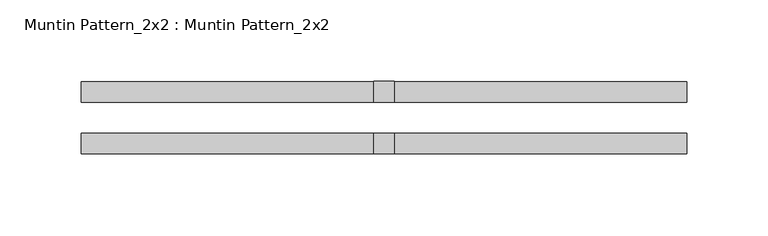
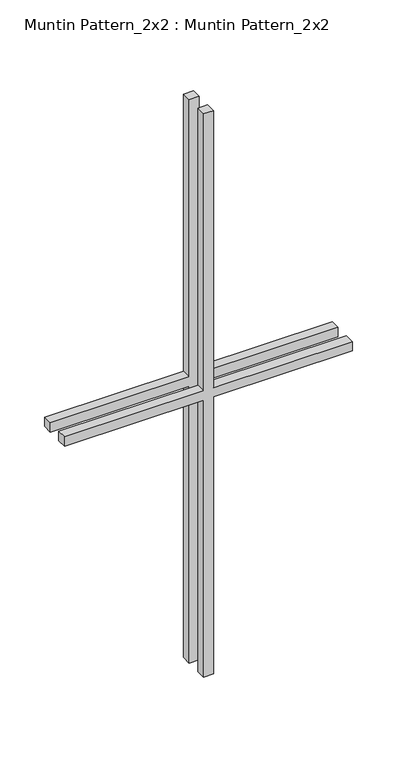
"""IFC4 building model written with IfcOpenShell, lengths in millimetres: proxy geometry, Muntin Pattern_2x2 : Muntin Pattern_2x2."""

import ifcopenshell
import ifcopenshell.guid

model = None  # the IFC model being written
_history = None  # IfcOwnerHistory: only IFC2X3 demands one
_inside = {}  # id of a spatial element -> (the spatial element, [elements in it])
_under = {}  # id of a project, library or spatial element -> (it, [spatial elements below it])
_declared = {}  # id of a project -> (the project, [libraries it declares])
_typed = {}  # id of a type object -> (the type object, [elements of that type])
_made_of = {}  # id of a material, layer set ... -> (it, [elements and type objects made of it])


def new_model(schema):
    """Start an empty IFC model of exactly this schema.

    Asked for "IFC4X3", IfcOpenShell would pick the latest addendum, in which some entities
    have other attributes; the version numbers below select the first issue.
    IFC2X3 requires an IfcOwnerHistory on every rooted entity: one is made here for all.
    """
    global model, _history
    if schema == "IFC4X3":
        model = ifcopenshell.file(schema_version=(4, 3, 0, 0))
    else:
        model = ifcopenshell.file(schema=schema)
    _inside.clear()
    _under.clear()
    _declared.clear()
    _typed.clear()
    _made_of.clear()
    _history = None
    if model.schema == "IFC2X3":
        org = make("IfcOrganization", Name="unknown")
        user = make(
            "IfcPersonAndOrganization",
            ThePerson=make("IfcPerson", FamilyName="unknown"),
            TheOrganization=org,
        )
        app = make(
            "IfcApplication",
            ApplicationDeveloper=org,
            Version="unknown",
            ApplicationFullName="unknown",
            ApplicationIdentifier="unknown",
        )
        _history = make(
            "IfcOwnerHistory",
            OwningUser=user,
            OwningApplication=app,
            ChangeAction="ADDED",
            CreationDate=0,
        )
    return model


def make(cls, **values):
    """One entity of the class cls with the attributes given. An attribute that is None is left unset."""
    return model.create_entity(
        cls, **{name: value for name, value in values.items() if value is not None}
    )


def rooted(cls, **values):
    """An entity with a GlobalId (a new one), such as an element, a storey or a relation."""
    return make(cls, GlobalId=ifcopenshell.guid.new(), OwnerHistory=_history, **values)


def si_unit(unit_type, name, prefix=None):
    """IfcSIUnit, for example si_unit("LENGTHUNIT", "METRE", prefix="MILLI")."""
    return make("IfcSIUnit", UnitType=unit_type, Prefix=prefix, Name=name)


def assignment(units):
    """IfcUnitAssignment: the units of a project."""
    return None if units is None else make("IfcUnitAssignment", Units=units)


def point(xyz):
    """IfcCartesianPoint."""
    return None if xyz is None else make("IfcCartesianPoint", Coordinates=xyz)


def direction(xyz):
    """IfcDirection."""
    return None if xyz is None else make("IfcDirection", DirectionRatios=xyz)


def frame(location, z_axis=None, x_axis=None):
    """IfcAxis2Placement3D, a coordinate frame: its origin and axes. An axis left out is left unset."""
    return make(
        "IfcAxis2Placement3D",
        Location=point(location),
        Axis=direction(z_axis),
        RefDirection=direction(x_axis),
    )


def origin():
    """The frame at (0, 0, 0) with its axes left unset."""
    return frame((0.0, 0.0, 0.0))


def place(relative_to, where):
    """IfcLocalPlacement: puts the frame where relative to a parent placement (None: the world)."""
    return make(
        "IfcLocalPlacement", PlacementRelTo=relative_to, RelativePlacement=where
    )


def context(
    kind, dimensions, precision=None, world=None, true_north=None, identifier=None
):
    """IfcGeometricRepresentationContext, for example the 3D "Model" context."""
    return make(
        "IfcGeometricRepresentationContext",
        ContextIdentifier=identifier,
        ContextType=kind,
        CoordinateSpaceDimension=dimensions,
        Precision=precision,
        WorldCoordinateSystem=world,
        TrueNorth=true_north,
    )


def project(units=None, contexts=None):
    """IfcProject with its units and contexts."""
    return rooted(
        "IfcProject",
        Name="project",
        RepresentationContexts=contexts,
        UnitsInContext=assignment(units),
    )


def spatial(cls, under=None, at=None, **own):
    """A site, building, storey or space (cls), placed at a placement, below another one or the project."""
    s = rooted(cls, ObjectPlacement=at, **own)
    if under is not None:
        _under.setdefault(under.id(), (under, []))[1].append(s)
    return s


def polyline(points):
    """IfcPolyline through the points."""
    return make("IfcPolyline", Points=[point(p) for p in points])


def outline(outer, holes=None, kind="AREA"):
    """IfcArbitraryClosedProfileDef: a profile drawn as a closed curve; with holes, ...WithVoids."""
    if holes is None:
        return make("IfcArbitraryClosedProfileDef", ProfileType=kind, OuterCurve=outer)
    return make(
        "IfcArbitraryProfileDefWithVoids",
        ProfileType=kind,
        OuterCurve=outer,
        InnerCurves=holes,
    )


def extrude(swept, where, along, depth):
    """IfcExtrudedAreaSolid: the profile swept, set in the frame where, extruded along a direction by depth."""
    return make(
        "IfcExtrudedAreaSolid",
        SweptArea=swept,
        Position=where,
        ExtrudedDirection=direction(along),
        Depth=depth,
    )


def shape(context_of_items, identifier, shape_type, items):
    """IfcShapeRepresentation: the items that make up one representation, for example the "Body"."""
    return make(
        "IfcShapeRepresentation",
        ContextOfItems=context_of_items,
        RepresentationIdentifier=identifier,
        RepresentationType=shape_type,
        Items=items,
    )


def source(mapping_origin, context_of_items, identifier, shape_type, items):
    """IfcRepresentationMap: a shape defined once, which mapped items show again and again."""
    return make(
        "IfcRepresentationMap",
        MappingOrigin=mapping_origin,
        MappedRepresentation=shape(context_of_items, identifier, shape_type, items),
    )


def transform(
    local_origin,
    x_axis=None,
    y_axis=None,
    z_axis=None,
    scale=None,
    scale2=None,
    scale3=None,
    uniform=True,
):
    """IfcCartesianTransformationOperator3D, or its non-uniform kind. x_axis, y_axis, z_axis: its Axis1, 2, 3."""
    if uniform:
        return make(
            "IfcCartesianTransformationOperator3D",
            Axis1=direction(x_axis),
            Axis2=direction(y_axis),
            LocalOrigin=point(local_origin),
            Scale=scale,
            Axis3=direction(z_axis),
        )
    return make(
        "IfcCartesianTransformationOperator3DnonUniform",
        Axis1=direction(x_axis),
        Axis2=direction(y_axis),
        LocalOrigin=point(local_origin),
        Scale=scale,
        Axis3=direction(z_axis),
        Scale2=scale2,
        Scale3=scale3,
    )


def mapped(mapping_source, mapping_target):
    """IfcMappedItem: shows the shape of a source again, moved by a transform."""
    return make(
        "IfcMappedItem", MappingSource=mapping_source, MappingTarget=mapping_target
    )


def made_of(thing, what):
    """Note that an element or type object is made of a material, layer set ...; save() writes the relation."""
    if what is not None:
        _made_of.setdefault(what.id(), (what, []))[1].append(thing)
    return thing


def element(
    cls,
    number,
    at=None,
    inside=None,
    cuts=None,
    type_object=None,
    material=None,
    context=None,
    identifier="Body",
    shape_type=None,
    held_by="IfcProductDefinitionShape",
    body=None,
    shapes=None,
    **own,
):
    """One element of the class cls, such as IfcWall. Its Tag is "e" and its number.

    at: its placement. inside: the storey or other place that contains it. cuts: it is an
    opening in that element (IfcRelVoidsElement). A single representation is given by context,
    identifier, shape_type and body (its items); several are given by shapes. held_by: the class
    of the entity that holds the representations. save() writes the other relations.
    """
    e = rooted(cls, Tag="e%d" % number, ObjectPlacement=at, **own)
    if body is not None:
        shapes = [shape(context, identifier, shape_type, body)]
    if shapes is not None:
        e.Representation = make(held_by, Representations=shapes)
    if inside is not None:
        _inside.setdefault(inside.id(), (inside, []))[1].append(e)
    if cuts is not None:
        rooted(
            "IfcRelVoidsElement", RelatingBuildingElement=cuts, RelatedOpeningElement=e
        )
    if type_object is not None:
        _typed.setdefault(type_object.id(), (type_object, []))[1].append(e)
    return made_of(e, material)


def aggregate(whole, parts):
    """IfcRelAggregates: a whole, such as a stair, and the parts it consists of."""
    return rooted("IfcRelAggregates", RelatingObject=whole, RelatedObjects=parts)


def save(model, path):
    """Write the relations noted so far, then the file.

    IfcRelAggregates (storeys below a building ...), IfcRelContainedInSpatialStructure (elements
    in a storey), IfcRelDefinesByType, IfcRelAssociatesMaterial and IfcRelDeclares: one each for
    every whole, place, type object, material and project.
    """
    for whole, parts in _under.values():
        aggregate(whole, parts)
    for where, things in _inside.values():
        rooted(
            "IfcRelContainedInSpatialStructure",
            RelatedElements=things,
            RelatingStructure=where,
        )
    for kind, things in _typed.values():
        rooted("IfcRelDefinesByType", RelatedObjects=things, RelatingType=kind)
    for what, things in _made_of.values():
        rooted("IfcRelAssociatesMaterial", RelatedObjects=things, RelatingMaterial=what)
    for by, libraries in _declared.values():
        rooted("IfcRelDeclares", RelatingContext=by, RelatedDefinitions=libraries)
    model.write(path)


def muntin_pattern_2x2_muntin_pattern_2x2_1f843837(model_context):
    return source(origin(), model_context, "Body", "SweptSolid", [
        extrude(outline(polyline([(390.525, -6.35), (390.525, -185.7375), (377.825, -185.7375), (377.825, -6.35), (0.0, -6.35), (0.0, 6.35), (377.825, 6.35), (377.825, 185.7375), (390.525, 185.7375), (390.525, 6.35), (768.35, 6.35), (768.35, -6.35), (390.525, -6.35)])), frame((0.0, -22.225, 0.0), z_axis=(0.0, 1.0, 0.0), x_axis=(0.0, 0.0, 1.0)), (0.0, 0.0, 1.0), 12.7),
        extrude(outline(polyline([(390.525, -6.35), (390.525, -185.7375), (377.825, -185.7375), (377.825, -6.35), (0.0, -6.35), (0.0, 6.35), (377.825, 6.35), (377.825, 185.7375), (390.525, 185.7375), (390.525, 6.35), (768.35, 6.35), (768.35, -6.35), (390.525, -6.35)])), frame((0.0, 9.525, 0.0), z_axis=(0.0, 1.0, 0.0), x_axis=(0.0, 0.0, 1.0)), (0.0, 0.0, 1.0), 12.7),
    ])


if __name__ == "__main__":
    model = new_model("IFC4")
    model_context = context("Model", 3, world=origin())
    ifc_project = project(units=[si_unit("LENGTHUNIT", "METRE", prefix="MILLI")], contexts=[model_context])
    site = spatial("IfcSite", under=ifc_project)
    building = spatial("IfcBuilding", under=site)
    placement = place(None, origin())
    muntin_pattern_2x2_muntin_pattern_2x2_shape = muntin_pattern_2x2_muntin_pattern_2x2_1f843837(model_context)
    element("IfcBuildingElementProxy", 1, Name="Muntin Pattern_2x2 : Muntin Pattern_2x2", ObjectType="Muntin Pattern_2x2 : Muntin Pattern_2x2", at=placement, inside=building, context=model_context, shape_type="MappedRepresentation", body=[
        mapped(muntin_pattern_2x2_muntin_pattern_2x2_shape, transform((0.0, 0.0, 0.0), x_axis=(1.0, 0.0, 0.0), y_axis=(0.0, 1.0, 0.0), z_axis=(0.0, 0.0, 1.0))),
    ])
    save(model, "model.ifc")
